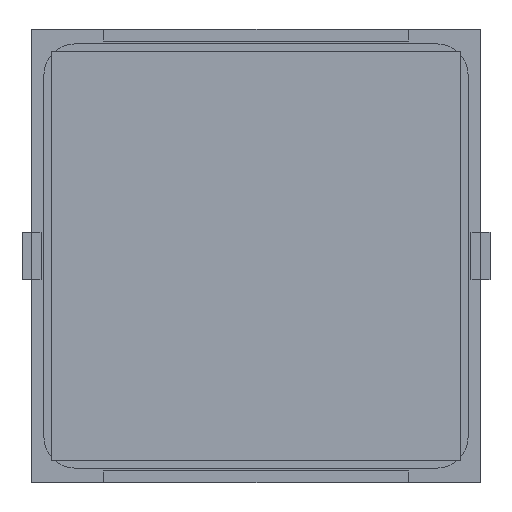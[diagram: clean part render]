
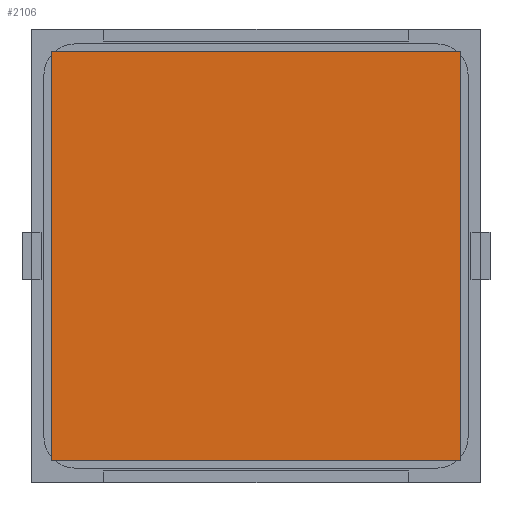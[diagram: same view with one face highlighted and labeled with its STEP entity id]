
A CAD part, front view. The second image highlights one B-rep face of the part: STEP entity #2106.
In plain terms, the highlighted planar face has unit normal (0, -1, 0).
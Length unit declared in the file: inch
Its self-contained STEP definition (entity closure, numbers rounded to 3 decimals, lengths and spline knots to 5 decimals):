
#289 = CARTESIAN_POINT ( 'NONE',  ( 0.84646, -0.005, 0.84646 ) ) ;
#360 = ORIENTED_EDGE ( 'NONE', *, *, #608, .F. ) ;
#608 = EDGE_CURVE ( 'NONE', #4434, #12653, #12136, .T. ) ;
#702 = VERTEX_POINT ( 'NONE', #7145 ) ;
#788 = EDGE_CURVE ( 'NONE', #12653, #10004, #7914, .T. ) ;
#1232 = CARTESIAN_POINT ( 'NONE',  ( -0.84646, -0.005, -0.84646 ) ) ;
#1890 = PLANE ( 'NONE',  #6211 ) ;
#2041 = VECTOR ( 'NONE', #11765, 39.37008 ) ;
#2106 = ADVANCED_FACE ( 'NONE', ( #9303 ), #1890, .F. ) ;
#3588 = EDGE_LOOP ( 'NONE', ( #8533, #3876, #5501, #360 ) ) ;
#3708 = CARTESIAN_POINT ( 'NONE',  ( -0.84646, -0.005, -0.84646 ) ) ;
#3876 = ORIENTED_EDGE ( 'NONE', *, *, #6186, .F. ) ;
#4397 = LINE ( 'NONE', #1232, #9698 ) ;
#4434 = VERTEX_POINT ( 'NONE', #8478 ) ;
#5004 = DIRECTION ( 'NONE',  ( 0., 1., 0. ) ) ;
#5501 = ORIENTED_EDGE ( 'NONE', *, *, #788, .F. ) ;
#6186 = EDGE_CURVE ( 'NONE', #10004, #702, #7565, .T. ) ;
#6211 = AXIS2_PLACEMENT_3D ( 'NONE', #6973, #5004, #11959 ) ;
#6424 = DIRECTION ( 'NONE',  ( 0., 0., 1. ) ) ;
#6973 = CARTESIAN_POINT ( 'NONE',  ( -0.84646, -0.005, 0.84646 ) ) ;
#7145 = CARTESIAN_POINT ( 'NONE',  ( -0.84646, -0.005, -0.84646 ) ) ;
#7565 = LINE ( 'NONE', #3708, #2041 ) ;
#7914 = LINE ( 'NONE', #12048, #8704 ) ;
#8478 = CARTESIAN_POINT ( 'NONE',  ( -0.84646, -0.005, 0.84646 ) ) ;
#8533 = ORIENTED_EDGE ( 'NONE', *, *, #10151, .F. ) ;
#8704 = VECTOR ( 'NONE', #12801, 39.37008 ) ;
#9303 = FACE_OUTER_BOUND ( 'NONE', #3588, .T. ) ;
#9578 = VECTOR ( 'NONE', #11009, 39.37008 ) ;
#9698 = VECTOR ( 'NONE', #6424, 39.37008 ) ;
#9843 = CARTESIAN_POINT ( 'NONE',  ( -0.84646, -0.005, 0.84646 ) ) ;
#10004 = VERTEX_POINT ( 'NONE', #11640 ) ;
#10151 = EDGE_CURVE ( 'NONE', #702, #4434, #4397, .T. ) ;
#11009 = DIRECTION ( 'NONE',  ( 1., 0., 0. ) ) ;
#11640 = CARTESIAN_POINT ( 'NONE',  ( 0.84646, -0.005, -0.84646 ) ) ;
#11765 = DIRECTION ( 'NONE',  ( -1., 0., 0. ) ) ;
#11959 = DIRECTION ( 'NONE',  ( 0., 0., 1. ) ) ;
#12048 = CARTESIAN_POINT ( 'NONE',  ( 0.84646, -0.005, -0.84646 ) ) ;
#12136 = LINE ( 'NONE', #9843, #9578 ) ;
#12653 = VERTEX_POINT ( 'NONE', #289 ) ;
#12801 = DIRECTION ( 'NONE',  ( 0., 0., -1. ) ) ;
